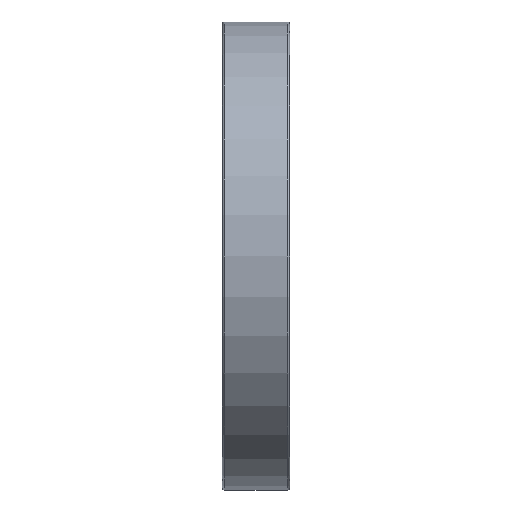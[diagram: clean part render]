
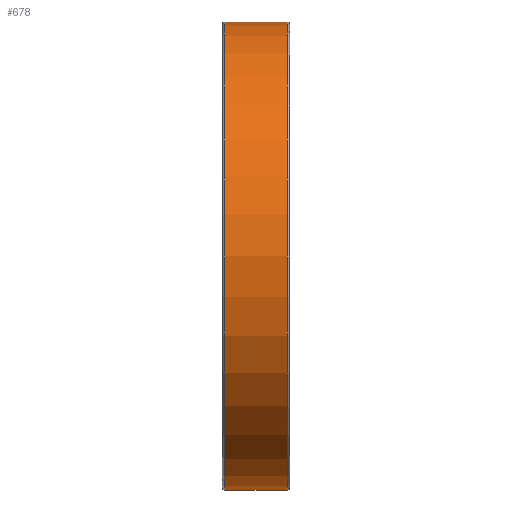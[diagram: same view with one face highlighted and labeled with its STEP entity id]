
A CAD part, front view. The second image highlights one B-rep face of the part: STEP entity #678.
In plain terms, the highlighted cylindrical face has radius 62.5 mm (diameter 125 mm), a full revolution.
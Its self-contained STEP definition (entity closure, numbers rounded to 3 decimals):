
#191=CYLINDRICAL_SURFACE('',#1086,62.5);
#323=EDGE_LOOP('',(#467));
#324=EDGE_LOOP('',(#468));
#467=ORIENTED_EDGE('',*,*,#547,.F.);
#468=ORIENTED_EDGE('',*,*,#545,.T.);
#545=EDGE_CURVE('',#997,#997,#565,.T.);
#547=EDGE_CURVE('',#999,#999,#567,.T.);
#565=CIRCLE('',#1082,62.5);
#567=CIRCLE('',#1085,62.5);
#678=ADVANCED_FACE('',(#867,#868),#191,.T.);
#867=FACE_BOUND('',#323,.T.);
#868=FACE_BOUND('',#324,.T.);
#997=VERTEX_POINT('',#2370);
#999=VERTEX_POINT('',#2375);
#1082=AXIS2_PLACEMENT_3D('',#2369,#1234,#1235);
#1085=AXIS2_PLACEMENT_3D('',#2374,#1240,#1241);
#1086=AXIS2_PLACEMENT_3D('',#2376,#1242,#1243);
#1234=DIRECTION('',(1.,0.,0.));
#1235=DIRECTION('',(0.,0.,-1.));
#1240=DIRECTION('',(1.,0.,0.));
#1241=DIRECTION('',(0.,0.,-1.));
#1242=DIRECTION('',(1.,0.,0.));
#1243=DIRECTION('',(0.,0.,-1.));
#2369=CARTESIAN_POINT('',(-8.4,0.,0.));
#2370=CARTESIAN_POINT('',(-8.4,0.,-62.5));
#2374=CARTESIAN_POINT('',(8.4,0.,0.));
#2375=CARTESIAN_POINT('',(8.4,0.,-62.5));
#2376=CARTESIAN_POINT('',(-8.4,0.,0.));
